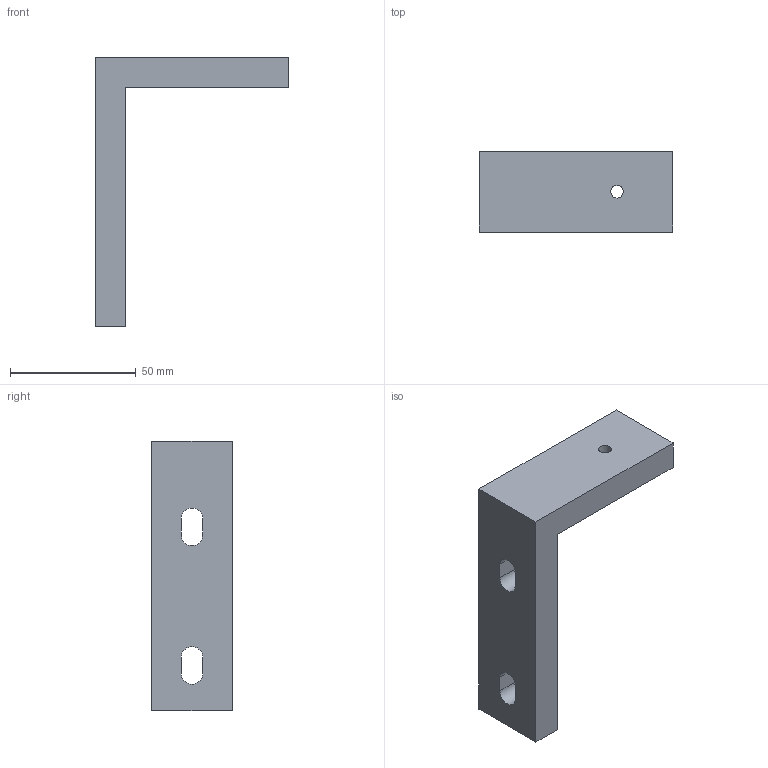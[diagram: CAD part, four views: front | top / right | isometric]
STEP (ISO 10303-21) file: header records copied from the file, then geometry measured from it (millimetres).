
FILE_DESCRIPTION(/* description */ (''),/* implementation_level */ '2;1');
FILE_NAME(/* name */ '041_L_finecorsa.stp',/* time_stamp */ '2020-01-08T15:28:23+01:00',/* author */ (''),/* organization */ (''),/* preprocessor_version */ 'ST-DEVELOPER v16.7',/* originating_system */ 'SIEMENS PLM Software NX 12.0',/* authorisation */ '');
FILE_SCHEMA (('AUTOMOTIVE_DESIGN { 1 0 10303 214 3 1 1 1 }'));
Length unit declared in the file: millimetre
Products named in the file (1): bez2C70411Cqd44
Bounding box: 77 x 32 x 107 mm (x, y, z)
Volume: 63124.5 mm3; surface area: 16558.1 mm2
Topology: 1 solids, 1 shells, 17 faces, 45 edges, 30 vertices
Faces by surface type: plane 12, cylinder 5
Full cylindrical faces by diameter (mm): 5 x1
Entity records: 568 total; most frequent: CARTESIAN_POINT 92, DIRECTION 90, ORIENTED_EDGE 88, EDGE_CURVE 44, LINE 34, VECTOR 34, VERTEX_POINT 30, AXIS2_PLACEMENT_3D 28
